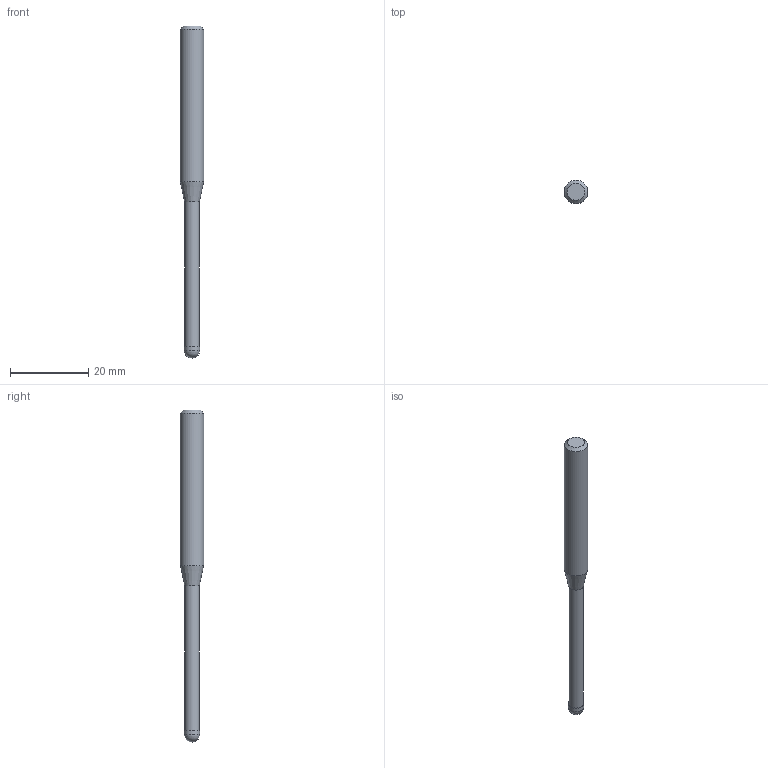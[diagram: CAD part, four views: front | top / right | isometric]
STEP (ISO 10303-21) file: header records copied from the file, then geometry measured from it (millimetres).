
FILE_DESCRIPTION((''),'2;1');
FILE_NAME('C:\Users\nsx150\AppData\Local\Temp\Mastercam 2021\3SYKECWX22\TEMP.step','2021-04-22T10:05:33',(''),(''),'STEP Write','Mastercam 2021 ... CNC Software, Inc.','');
FILE_SCHEMA(('AUTOMOTIVE_DESIGN'));
Length unit declared in the file: millimetre
Products named in the file (1): None
Bounding box: 6 x 6 x 85 mm (x, y, z)
Volume: 1668.7 mm3; surface area: 1354 mm2
Topology: 2 solids, 2 shells, 9 faces, 14 edges, 8 vertices
Faces by surface type: plane 3, cylinder 3, cone 2, sphere 1
Full cylindrical faces by diameter (mm): 3.8 x1, 4 x1, 6 x1
Entity records: 211 total; most frequent: DIRECTION 36, CARTESIAN_POINT 25, AXIS2_PLACEMENT_3D 18, ORIENTED_EDGE 14, EDGE_LOOP 14, STYLED_ITEM 12, ADVANCED_FACE 9, FACE_BOUND 8
